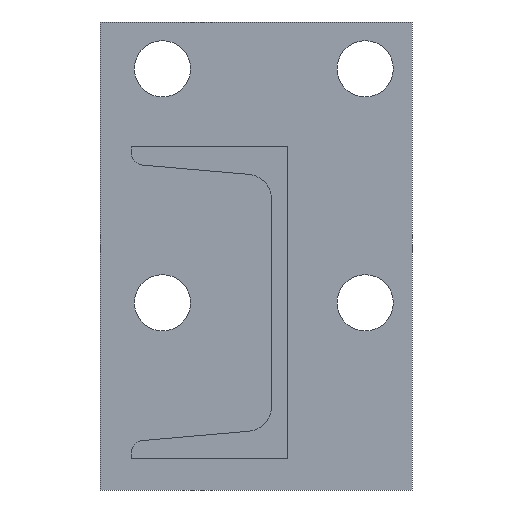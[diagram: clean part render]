
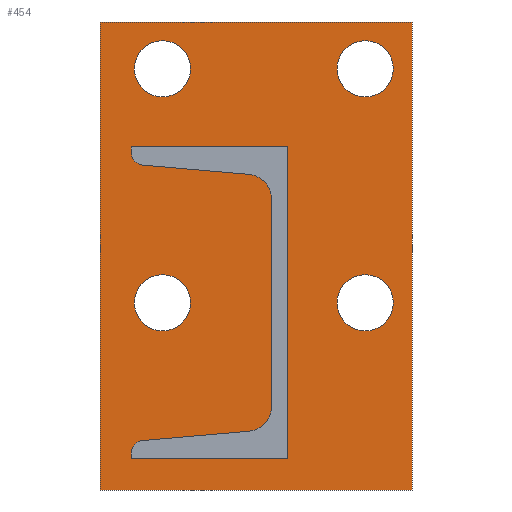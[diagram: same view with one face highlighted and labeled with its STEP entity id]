
A CAD part, front view. The second image highlights one B-rep face of the part: STEP entity #454.
In plain terms, the highlighted planar face has unit normal (0, -1, 0).
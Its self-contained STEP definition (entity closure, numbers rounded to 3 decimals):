
#19=FACE_BOUND('',#87,.T.);
#20=FACE_BOUND('',#88,.T.);
#21=FACE_BOUND('',#89,.T.);
#22=FACE_BOUND('',#90,.T.);
#58=FACE_OUTER_BOUND('',#86,.T.);
#86=EDGE_LOOP('',(#395,#396,#397,#398));
#87=EDGE_LOOP('',(#399));
#88=EDGE_LOOP('',(#400));
#89=EDGE_LOOP('',(#401));
#90=EDGE_LOOP('',(#402));
#103=CIRCLE('',#498,9.);
#105=CIRCLE('',#501,9.);
#107=CIRCLE('',#504,9.);
#109=CIRCLE('',#507,9.);
#147=LINE('',#758,#191);
#148=LINE('',#760,#192);
#149=LINE('',#762,#193);
#150=LINE('',#763,#194);
#191=VECTOR('',#628,10.);
#192=VECTOR('',#629,10.);
#193=VECTOR('',#630,10.);
#194=VECTOR('',#631,10.);
#223=VERTEX_POINT('',#723);
#225=VERTEX_POINT('',#729);
#227=VERTEX_POINT('',#735);
#229=VERTEX_POINT('',#741);
#235=VERTEX_POINT('',#756);
#236=VERTEX_POINT('',#757);
#237=VERTEX_POINT('',#759);
#238=VERTEX_POINT('',#761);
#275=EDGE_CURVE('',#223,#223,#103,.T.);
#278=EDGE_CURVE('',#225,#225,#105,.T.);
#281=EDGE_CURVE('',#227,#227,#107,.T.);
#284=EDGE_CURVE('',#229,#229,#109,.T.);
#291=EDGE_CURVE('',#235,#236,#147,.T.);
#292=EDGE_CURVE('',#236,#237,#148,.T.);
#293=EDGE_CURVE('',#237,#238,#149,.T.);
#294=EDGE_CURVE('',#238,#235,#150,.T.);
#395=ORIENTED_EDGE('',*,*,#291,.T.);
#396=ORIENTED_EDGE('',*,*,#292,.T.);
#397=ORIENTED_EDGE('',*,*,#293,.T.);
#398=ORIENTED_EDGE('',*,*,#294,.T.);
#399=ORIENTED_EDGE('',*,*,#275,.T.);
#400=ORIENTED_EDGE('',*,*,#278,.T.);
#401=ORIENTED_EDGE('',*,*,#281,.T.);
#402=ORIENTED_EDGE('',*,*,#284,.T.);
#430=PLANE('',#510);
#454=ADVANCED_FACE('',(#58,#19,#20,#21,#22),#430,.F.);
#498=AXIS2_PLACEMENT_3D('',#724,#594,#595);
#501=AXIS2_PLACEMENT_3D('',#730,#601,#602);
#504=AXIS2_PLACEMENT_3D('',#736,#608,#609);
#507=AXIS2_PLACEMENT_3D('',#742,#615,#616);
#510=AXIS2_PLACEMENT_3D('',#755,#626,#627);
#594=DIRECTION('center_axis',(0.,1.,0.));
#595=DIRECTION('ref_axis',(1.,0.,0.));
#601=DIRECTION('center_axis',(0.,1.,0.));
#602=DIRECTION('ref_axis',(1.,0.,0.));
#608=DIRECTION('center_axis',(0.,1.,0.));
#609=DIRECTION('ref_axis',(1.,0.,0.));
#615=DIRECTION('center_axis',(0.,1.,0.));
#616=DIRECTION('ref_axis',(1.,0.,0.));
#626=DIRECTION('center_axis',(0.,1.,0.));
#627=DIRECTION('ref_axis',(0.,0.,-1.));
#628=DIRECTION('',(1.,0.,0.));
#629=DIRECTION('',(0.,0.,1.));
#630=DIRECTION('',(-1.,0.,0.));
#631=DIRECTION('',(0.,0.,-1.));
#723=CARTESIAN_POINT('',(11.,0.,-90.));
#724=CARTESIAN_POINT('Origin',(20.,0.,-90.));
#729=CARTESIAN_POINT('',(76.,0.,-90.));
#730=CARTESIAN_POINT('Origin',(85.,0.,-90.));
#735=CARTESIAN_POINT('',(11.,0.,-15.));
#736=CARTESIAN_POINT('Origin',(20.,0.,-15.));
#741=CARTESIAN_POINT('',(76.,0.,-15.));
#742=CARTESIAN_POINT('Origin',(85.,0.,-15.));
#755=CARTESIAN_POINT('Origin',(50.,0.,-75.));
#756=CARTESIAN_POINT('',(0.,0.,-150.));
#757=CARTESIAN_POINT('',(100.,0.,-150.));
#758=CARTESIAN_POINT('',(50.,0.,-150.));
#759=CARTESIAN_POINT('',(100.,0.,0.));
#760=CARTESIAN_POINT('',(100.,0.,-75.));
#761=CARTESIAN_POINT('',(0.,0.,0.));
#762=CARTESIAN_POINT('',(50.,0.,0.));
#763=CARTESIAN_POINT('',(0.,0.,-75.));
